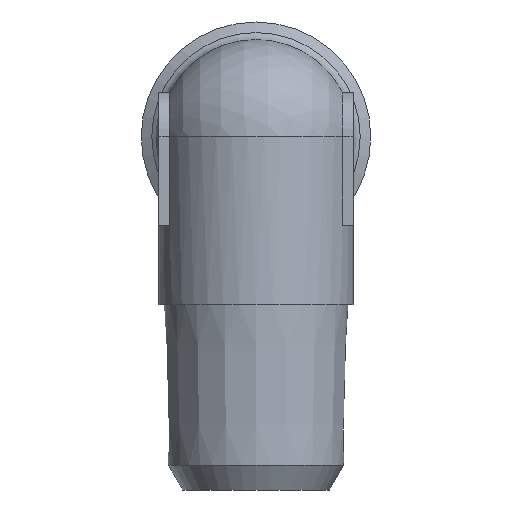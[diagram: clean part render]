
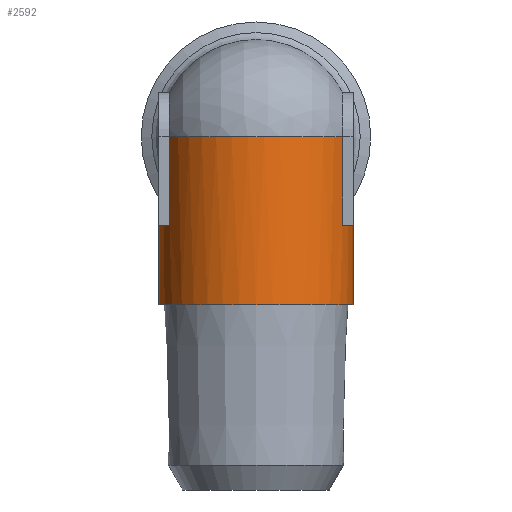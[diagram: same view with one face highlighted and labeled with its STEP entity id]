
A CAD part, left-side view. The second image highlights one B-rep face of the part: STEP entity #2592.
In plain terms, the highlighted cylindrical face has radius 5.5 mm (diameter 11 mm), a full revolution.
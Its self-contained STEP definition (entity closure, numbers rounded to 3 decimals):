
#991=ELLIPSE('',#2465,7.778,5.5);
#1008=VECTOR('',#1858,1.);
#1009=VECTOR('',#1863,1.);
#1010=VECTOR('',#1868,1.);
#1011=VECTOR('',#1871,1.);
#1046=LINE('',#2311,#1008);
#1047=LINE('',#2316,#1009);
#1048=LINE('',#2321,#1010);
#1049=LINE('',#2324,#1011);
#1088=CYLINDRICAL_SURFACE('',#2480,5.5);
#1196=ORIENTED_EDGE('',*,*,#1478,.T.);
#1197=ORIENTED_EDGE('',*,*,#1455,.F.);
#1198=ORIENTED_EDGE('',*,*,#1479,.F.);
#1199=ORIENTED_EDGE('',*,*,#1480,.F.);
#1200=ORIENTED_EDGE('',*,*,#1481,.F.);
#1201=ORIENTED_EDGE('',*,*,#1482,.F.);
#1202=ORIENTED_EDGE('',*,*,#1461,.F.);
#1203=ORIENTED_EDGE('',*,*,#1477,.F.);
#1204=ORIENTED_EDGE('',*,*,#1476,.F.);
#1205=ORIENTED_EDGE('',*,*,#1483,.F.);
#1206=ORIENTED_EDGE('',*,*,#1484,.F.);
#1325=CIRCLE('',#2470,5.5);
#1328=CIRCLE('',#2478,5.5);
#1329=CIRCLE('',#2481,5.5);
#1330=CIRCLE('',#2482,5.5);
#1331=CIRCLE('',#2483,5.5);
#1332=CIRCLE('',#2484,5.5);
#1380=VERTEX_POINT('',#2265);
#1381=VERTEX_POINT('',#2267);
#1385=VERTEX_POINT('',#2277);
#1386=VERTEX_POINT('',#2279);
#1390=VERTEX_POINT('',#2295);
#1395=VERTEX_POINT('',#2307);
#1396=VERTEX_POINT('',#2313);
#1397=VERTEX_POINT('',#2315);
#1398=VERTEX_POINT('',#2317);
#1399=VERTEX_POINT('',#2319);
#1400=VERTEX_POINT('',#2322);
#1455=EDGE_CURVE('',#1380,#1381,#991,.T.);
#1461=EDGE_CURVE('',#1385,#1386,#1325,.T.);
#1476=EDGE_CURVE('',#1390,#1395,#1328,.T.);
#1477=EDGE_CURVE('',#1395,#1385,#1046,.T.);
#1478=EDGE_CURVE('',#1396,#1396,#1329,.T.);
#1479=EDGE_CURVE('',#1397,#1380,#1047,.T.);
#1480=EDGE_CURVE('',#1398,#1397,#1330,.T.);
#1481=EDGE_CURVE('',#1399,#1398,#1331,.T.);
#1482=EDGE_CURVE('',#1386,#1399,#1048,.T.);
#1483=EDGE_CURVE('',#1400,#1390,#1332,.T.);
#1484=EDGE_CURVE('',#1381,#1400,#1049,.T.);
#1569=EDGE_LOOP('',(#1196));
#1570=EDGE_LOOP('',(#1197,#1198,#1199,#1200,#1201,#1202,#1203,#1204,#1205,
#1206));
#1670=FACE_BOUND('',#1569,.T.);
#1671=FACE_BOUND('',#1570,.T.);
#1814=DIRECTION('',(0.707,0.707,0.));
#1815=DIRECTION('',(0.707,-0.707,0.));
#1826=DIRECTION('',(0.,1.,0.));
#1827=DIRECTION('',(0.,0.,-5.5));
#1854=DIRECTION('',(0.,1.,0.));
#1855=DIRECTION('',(0.,0.,-5.5));
#1858=DIRECTION('',(0.,5.,0.));
#1859=DIRECTION('',(0.,1.,0.));
#1860=DIRECTION('',(1.,0.,0.));
#1861=DIRECTION('',(0.,1.,0.));
#1862=DIRECTION('',(5.5,0.,0.));
#1863=DIRECTION('',(0.,2.5,0.));
#1864=DIRECTION('',(0.,1.,0.));
#1865=DIRECTION('',(0.,0.,-5.5));
#1866=DIRECTION('',(0.,1.,0.));
#1867=DIRECTION('',(0.,0.,-5.5));
#1868=DIRECTION('',(0.,-5.,0.));
#1869=DIRECTION('',(0.,1.,0.));
#1870=DIRECTION('',(0.,0.,-5.5));
#1871=DIRECTION('',(0.,-2.5,0.));
#2265=CARTESIAN_POINT('',(2.5,-2.5,4.899));
#2267=CARTESIAN_POINT('',(2.5,-2.5,-4.899));
#2268=CARTESIAN_POINT('',(0.,0.,0.));
#2277=CARTESIAN_POINT('',(-2.5,0.,-4.899));
#2279=CARTESIAN_POINT('',(-2.5,0.,4.899));
#2280=CARTESIAN_POINT('',(0.,0.,0.));
#2295=CARTESIAN_POINT('',(0.,-5.,-5.5));
#2307=CARTESIAN_POINT('',(-2.5,-5.,-4.899));
#2309=CARTESIAN_POINT('',(0.,-5.,0.));
#2311=CARTESIAN_POINT('',(-2.5,-5.,-4.899));
#2312=CARTESIAN_POINT('',(0.,-9.5,0.));
#2313=CARTESIAN_POINT('',(5.5,-9.5,0.));
#2314=CARTESIAN_POINT('',(0.,-9.5,0.));
#2315=CARTESIAN_POINT('',(2.5,-5.,4.899));
#2316=CARTESIAN_POINT('',(2.5,-5.,4.899));
#2317=CARTESIAN_POINT('',(0.,-5.,5.5));
#2318=CARTESIAN_POINT('',(0.,-5.,0.));
#2319=CARTESIAN_POINT('',(-2.5,-5.,4.899));
#2320=CARTESIAN_POINT('',(0.,-5.,0.));
#2321=CARTESIAN_POINT('',(-2.5,0.,4.899));
#2322=CARTESIAN_POINT('',(2.5,-5.,-4.899));
#2323=CARTESIAN_POINT('',(0.,-5.,0.));
#2324=CARTESIAN_POINT('',(2.5,-2.5,-4.899));
#2465=AXIS2_PLACEMENT_3D('',#2268,#1814,#1815);
#2470=AXIS2_PLACEMENT_3D('',#2280,#1826,#1827);
#2478=AXIS2_PLACEMENT_3D('',#2309,#1854,#1855);
#2480=AXIS2_PLACEMENT_3D('',#2312,#1859,#1860);
#2481=AXIS2_PLACEMENT_3D('',#2314,#1861,#1862);
#2482=AXIS2_PLACEMENT_3D('',#2318,#1864,#1865);
#2483=AXIS2_PLACEMENT_3D('',#2320,#1866,#1867);
#2484=AXIS2_PLACEMENT_3D('',#2323,#1869,#1870);
#2592=ADVANCED_FACE('',(#1670,#1671),#1088,.T.);
